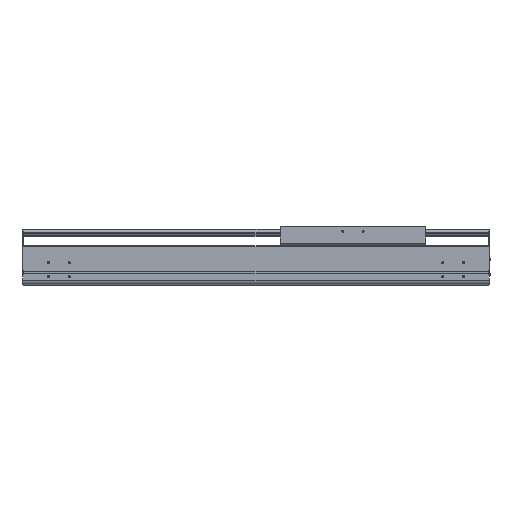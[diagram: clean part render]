
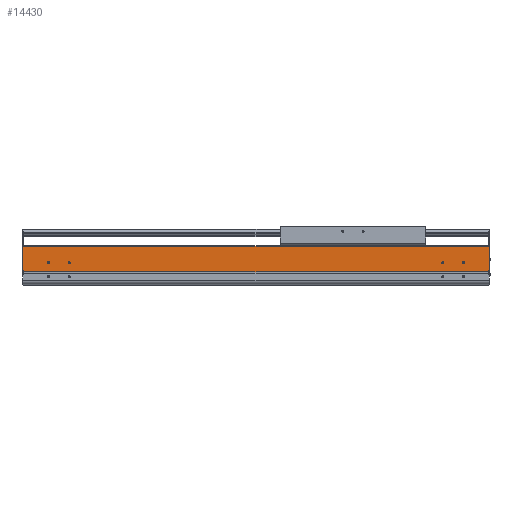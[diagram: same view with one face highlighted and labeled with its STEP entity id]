
A CAD part, top view. The second image highlights one B-rep face of the part: STEP entity #14430.
In plain terms, the highlighted planar face has unit normal (0, 0, 1).
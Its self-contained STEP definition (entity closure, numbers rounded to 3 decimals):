
#1844=DIRECTION('',(0.,-1.,0.));
#1845=VECTOR('',#1844,2.55);
#1846=CARTESIAN_POINT('',(0.,34.65,107.));
#1847=LINE('',#1846,#1845);
#2327=DIRECTION('',(1.,0.,0.));
#2328=VECTOR('',#2327,2.);
#2329=CARTESIAN_POINT('',(-1121.,34.65,107.));
#2330=LINE('',#2329,#2328);
#2331=CARTESIAN_POINT('',(-59.5,54.,107.));
#2332=DIRECTION('',(0.,0.,-1.));
#2333=DIRECTION('',(1.,0.,0.));
#2334=AXIS2_PLACEMENT_3D('',#2331,#2332,#2333);
#2336=CARTESIAN_POINT('',(-59.5,54.,107.));
#2337=DIRECTION('',(0.,0.,-1.));
#2338=DIRECTION('',(-1.,0.,0.));
#2339=AXIS2_PLACEMENT_3D('',#2336,#2337,#2338);
#2341=CARTESIAN_POINT('',(-109.5,54.,107.));
#2342=DIRECTION('',(0.,0.,-1.));
#2343=DIRECTION('',(1.,0.,0.));
#2344=AXIS2_PLACEMENT_3D('',#2341,#2342,#2343);
#2346=CARTESIAN_POINT('',(-109.5,54.,107.));
#2347=DIRECTION('',(0.,0.,-1.));
#2348=DIRECTION('',(-1.,0.,0.));
#2349=AXIS2_PLACEMENT_3D('',#2346,#2347,#2348);
#2351=CARTESIAN_POINT('',(-1059.5,54.,107.));
#2352=DIRECTION('',(0.,0.,-1.));
#2353=DIRECTION('',(1.,0.,0.));
#2354=AXIS2_PLACEMENT_3D('',#2351,#2352,#2353);
#2356=CARTESIAN_POINT('',(-1059.5,54.,107.));
#2357=DIRECTION('',(0.,0.,-1.));
#2358=DIRECTION('',(-1.,0.,0.));
#2359=AXIS2_PLACEMENT_3D('',#2356,#2357,#2358);
#2361=CARTESIAN_POINT('',(-1009.5,54.,107.));
#2362=DIRECTION('',(0.,0.,-1.));
#2363=DIRECTION('',(1.,0.,0.));
#2364=AXIS2_PLACEMENT_3D('',#2361,#2362,#2363);
#2366=CARTESIAN_POINT('',(-1009.5,54.,107.));
#2367=DIRECTION('',(0.,0.,-1.));
#2368=DIRECTION('',(-1.,0.,0.));
#2369=AXIS2_PLACEMENT_3D('',#2366,#2367,#2368);
#2371=DIRECTION('',(0.,-1.,0.));
#2372=VECTOR('',#2371,2.55);
#2373=CARTESIAN_POINT('',(-1119.,34.65,107.));
#2374=LINE('',#2373,#2372);
#2375=DIRECTION('',(0.,-1.,0.));
#2376=VECTOR('',#2375,58.85);
#2377=CARTESIAN_POINT('',(-1121.,93.5,107.));
#2378=LINE('',#2377,#2376);
#2379=DIRECTION('',(0.,1.,0.));
#2380=VECTOR('',#2379,58.85);
#2381=CARTESIAN_POINT('',(2.,34.65,107.));
#2382=LINE('',#2381,#2380);
#2383=DIRECTION('',(1.,0.,0.));
#2384=VECTOR('',#2383,1119.);
#2385=CARTESIAN_POINT('',(-1119.,32.1,107.));
#2386=LINE('',#2385,#2384);
#2491=DIRECTION('',(-1.,0.,0.));
#2492=VECTOR('',#2491,1123.);
#2493=CARTESIAN_POINT('',(2.,93.5,107.));
#2494=LINE('',#2493,#2492);
#7767=DIRECTION('',(1.,0.,0.));
#7768=VECTOR('',#7767,2.);
#7769=CARTESIAN_POINT('',(0.,34.65,107.));
#7770=LINE('',#7769,#7768);
#8917=CARTESIAN_POINT('',(-1121.,34.65,107.));
#8918=VERTEX_POINT('',#8917);
#8919=CARTESIAN_POINT('',(-1121.,93.5,107.));
#8920=VERTEX_POINT('',#8919);
#9149=CARTESIAN_POINT('',(-1119.,32.1,107.));
#9150=VERTEX_POINT('',#9149);
#9425=CARTESIAN_POINT('',(0.,32.1,107.));
#9426=VERTEX_POINT('',#9425);
#9427=CARTESIAN_POINT('',(-57.,54.,107.));
#9428=CARTESIAN_POINT('',(-62.,54.,107.));
#9429=VERTEX_POINT('',#9427);
#9430=VERTEX_POINT('',#9428);
#9431=CARTESIAN_POINT('',(-107.,54.,107.));
#9432=CARTESIAN_POINT('',(-112.,54.,107.));
#9433=VERTEX_POINT('',#9431);
#9434=VERTEX_POINT('',#9432);
#9435=CARTESIAN_POINT('',(-1057.,54.,107.));
#9436=CARTESIAN_POINT('',(-1062.,54.,107.));
#9437=VERTEX_POINT('',#9435);
#9438=VERTEX_POINT('',#9436);
#9439=CARTESIAN_POINT('',(-1007.,54.,107.));
#9440=CARTESIAN_POINT('',(-1012.,54.,107.));
#9441=VERTEX_POINT('',#9439);
#9442=VERTEX_POINT('',#9440);
#10254=CARTESIAN_POINT('',(2.,34.65,107.));
#10255=VERTEX_POINT('',#10254);
#10256=CARTESIAN_POINT('',(2.,93.5,107.));
#10257=VERTEX_POINT('',#10256);
#10708=CARTESIAN_POINT('',(0.,34.65,107.));
#10709=VERTEX_POINT('',#10708);
#10788=CARTESIAN_POINT('',(-1119.,34.65,107.));
#10789=VERTEX_POINT('',#10788);
#14388=CARTESIAN_POINT('',(-559.5,62.8,107.));
#14389=DIRECTION('',(0.,0.,1.));
#14390=DIRECTION('',(0.,-1.,0.));
#14391=AXIS2_PLACEMENT_3D('',#14388,#14389,#14390);
#14392=PLANE('',#14391);
#14393=ORIENTED_EDGE('',*,*,#11874,.F.);
#14394=ORIENTED_EDGE('',*,*,#14383,.F.);
#14395=ORIENTED_EDGE('',*,*,#12503,.F.);
#14397=ORIENTED_EDGE('',*,*,#14396,.F.);
#14398=ORIENTED_EDGE('',*,*,#11611,.F.);
#14400=ORIENTED_EDGE('',*,*,#14399,.F.);
#14401=ORIENTED_EDGE('',*,*,#13991,.T.);
#14403=ORIENTED_EDGE('',*,*,#14402,.F.);
#14404=EDGE_LOOP('',(#14393,#14394,#14395,#14397,#14398,#14400,#14401,#14403));
#14405=FACE_OUTER_BOUND('',#14404,.F.);
#14407=ORIENTED_EDGE('',*,*,#14406,.F.);
#14409=ORIENTED_EDGE('',*,*,#14408,.F.);
#14410=EDGE_LOOP('',(#14407,#14409));
#14411=FACE_BOUND('',#14410,.F.);
#14413=ORIENTED_EDGE('',*,*,#14412,.F.);
#14415=ORIENTED_EDGE('',*,*,#14414,.F.);
#14416=EDGE_LOOP('',(#14413,#14415));
#14417=FACE_BOUND('',#14416,.F.);
#14419=ORIENTED_EDGE('',*,*,#14418,.F.);
#14421=ORIENTED_EDGE('',*,*,#14420,.F.);
#14422=EDGE_LOOP('',(#14419,#14421));
#14423=FACE_BOUND('',#14422,.F.);
#14425=ORIENTED_EDGE('',*,*,#14424,.F.);
#14427=ORIENTED_EDGE('',*,*,#14426,.F.);
#14428=EDGE_LOOP('',(#14425,#14427));
#14429=FACE_BOUND('',#14428,.F.);
#14430=ADVANCED_FACE('',(#14405,#14411,#14417,#14423,#14429),#14392,.T.);
#2335=CIRCLE('',#2334,2.5);
#2340=CIRCLE('',#2339,2.5);
#2345=CIRCLE('',#2344,2.5);
#2350=CIRCLE('',#2349,2.5);
#2355=CIRCLE('',#2354,2.5);
#2360=CIRCLE('',#2359,2.5);
#2365=CIRCLE('',#2364,2.5);
#2370=CIRCLE('',#2369,2.5);
#11611=EDGE_CURVE('',#10255,#10257,#2382,.T.);
#11874=EDGE_CURVE('',#10789,#9150,#2374,.T.);
#12503=EDGE_CURVE('',#8920,#8918,#2378,.T.);
#13991=EDGE_CURVE('',#10709,#9426,#1847,.T.);
#14383=EDGE_CURVE('',#8918,#10789,#2330,.T.);
#14396=EDGE_CURVE('',#10257,#8920,#2494,.T.);
#14399=EDGE_CURVE('',#10709,#10255,#7770,.T.);
#14402=EDGE_CURVE('',#9150,#9426,#2386,.T.);
#14406=EDGE_CURVE('',#9433,#9434,#2345,.T.);
#14408=EDGE_CURVE('',#9434,#9433,#2350,.T.);
#14412=EDGE_CURVE('',#9437,#9438,#2355,.T.);
#14414=EDGE_CURVE('',#9438,#9437,#2360,.T.);
#14418=EDGE_CURVE('',#9441,#9442,#2365,.T.);
#14420=EDGE_CURVE('',#9442,#9441,#2370,.T.);
#14424=EDGE_CURVE('',#9429,#9430,#2335,.T.);
#14426=EDGE_CURVE('',#9430,#9429,#2340,.T.);
